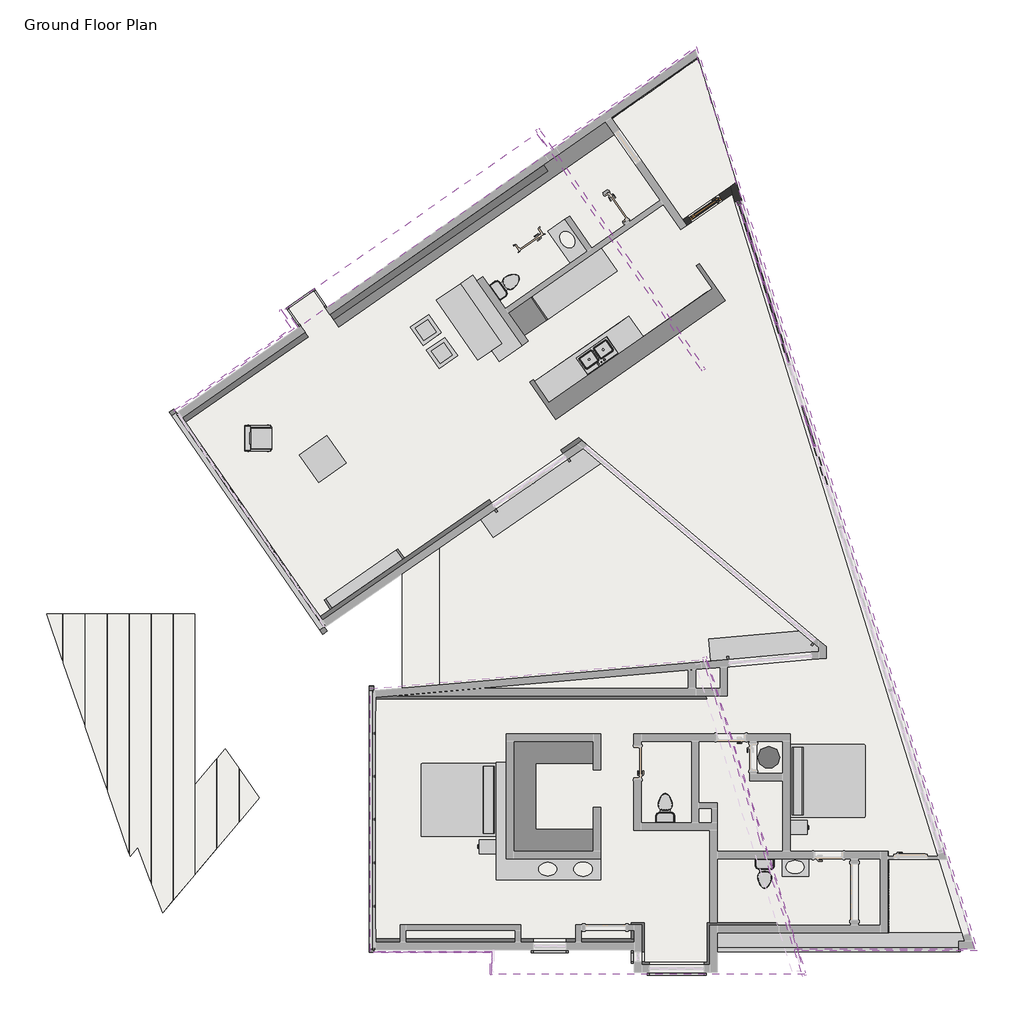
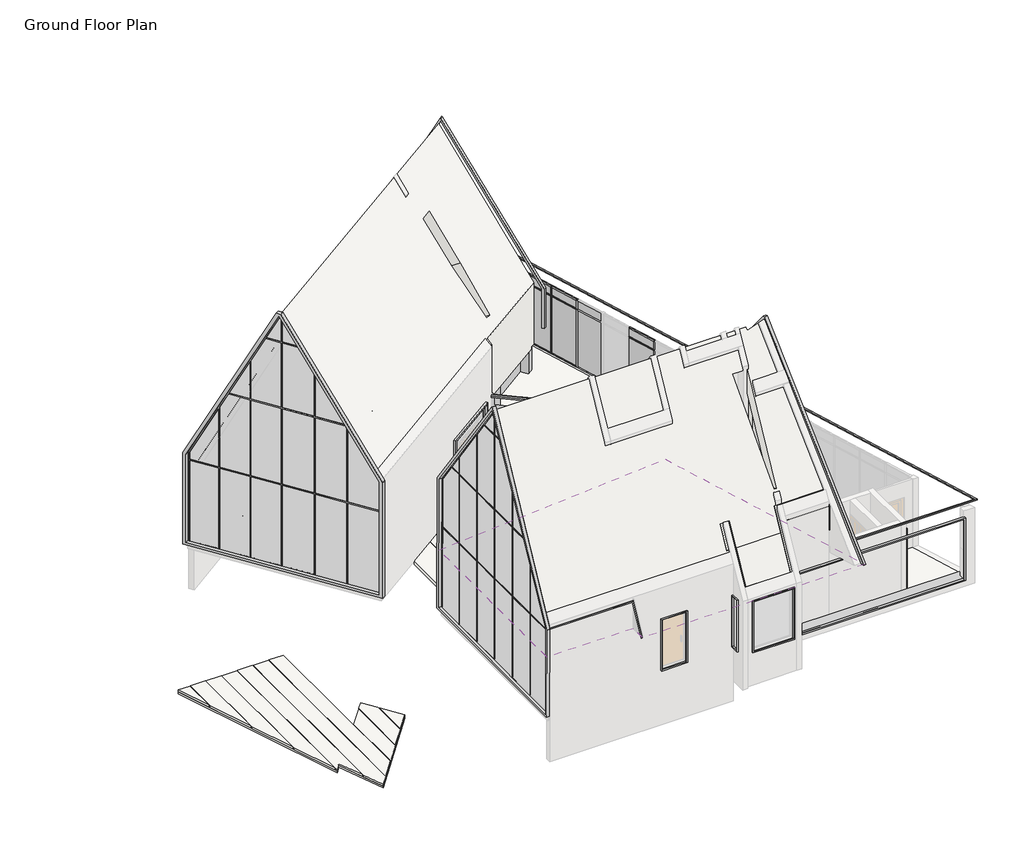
# One storey, part 5 of 5: 30 furniture elements, 23 members, 10 plates, 5 flow terminals, 5 slabs, 2 coverings, 2 walls, 1 door, 2 other elements.
"""IFC4 building model written with IfcOpenShell, lengths in millimetres."""

from ifc_helpers import new_model, si_unit, frame, origin, origin_with_axes, place, context, project, spatial, polyline, outline, extrude, faceted_brep, transform, mapped, element, save
from components import ceilings_1_ceilings_1_4e8246e3, ceilings_2_ceilings_2_b1cccb20, door_750mm_wide_door_e2ca8ed5, m_sink_kitchen_double_1000_x_535mm_0441a45c, m_toilet_domestic_3d_m_toilet_domestic_3d_5cb52bd4, m_toilet_domestic_3d_m_toilet_domestic_3d_183bbd19, m_toilet_domestic_3d_m_toilet_domestic_3d_43425dfb, m_toilet_domestic_3d_m_toilet_domestic_3d_5530cc89, m_water_heater_m_water_heater_2_e81d62a2, furniture_5fe4add1, furniture_41bca0cc, furniture_4803af8d, casework_11_casework_11_92e022cd, casework_13_casework_13_cae8e3e0, casework_14_casework_14_0dd781de, casework_15_casework_15_146c0986, casework_17_casework_17_51ee024e, casework_18_casework_18_d125f7c3, casework_20_casework_20_86b0d857, casework_21_casework_21_3d17a38e, casework_4_casework_4_f45020b6, casework_5_casework_5_8ba0d865, casework_6_casework_6_2a395651, casework_9_casework_9_728005be, chair_zk_lounge_5434_chair_zk_lounge_5434_35d170e8, curtain_wall_side_curtain_wall_side_cf0fcddf, m_bed_standard_1981_x_2032mm_king_79a78f5c, m_cabinet_file_2_drawer_0380_x_0457mm_73eb37cc, m_shelving_2440_x_0305_x_2134mm_d378ea2c, m_table_coffee_0610_x_0610_x_0610mm_65ce43c2, m_table_rectangular_0915_x_0915mm_f905f5f6, mullions_mullions_dccb908f, mullions1_mullions_ce62cb3f, wic_wic_6387dbf6, wall_finish_2_wall_finish_2_ec604deb, wall_finish_wall_finish_0220e786, rectangular_mullion_50x150mm_d6dec429, rectangular_mullion_50x150mm_72788f02, rectangular_mullion_50x150mm_3b0701cb, rectangular_mullion_50x150mm_ea022c74, rectangular_mullion_50x150mm_58209b6d, rectangular_mullion_50x150mm_e022757b, rectangular_mullion_50x150mm_7bc943a1, rectangular_mullion_50x150mm_facade_223d22c9, rectangular_mullion_50x150mm_facade_d6cc5c5f, system_panel_glazed_c5d443fe, system_panel_glazed_77f98377, system_panel_glazed_08b702ac, system_panel_opaque_81517e9a, system_panel_opaque_e4a811f1, system_panel_opaque_66f26a5c, stairs_3_stairs_3_b246aefd

model = new_model("IFC4")

# Units and contexts
model_context = context("Model", 3, world=origin())
ifc_project = project(units=[si_unit("LENGTHUNIT", "METRE", prefix="MILLI")], contexts=[model_context])

# Site, building, storey
site = spatial("IfcSite", under=ifc_project)
building = spatial("IfcBuilding", under=site)
storey = spatial("IfcBuildingStorey", under=building, Name="Ground Floor Plan", Elevation=0.0)

# Coverings
placement = place(None, origin())
ceilings_1_ceilings_1_shape = ceilings_1_ceilings_1_4e8246e3(model_context)
element("IfcCovering", 1, ObjectType="Ceilings 1 : Ceilings 1", at=placement, inside=storey, context=model_context, shape_type="MappedRepresentation", body=[
    mapped(ceilings_1_ceilings_1_shape, transform((0.0, 0.0, 0.0), x_axis=(1.0, 0.0, 0.0), y_axis=(0.0, 1.0, 0.0), z_axis=(0.0, 0.0, 1.0))),
])
ceilings_2_ceilings_2_shape = ceilings_2_ceilings_2_b1cccb20(model_context)
element("IfcCovering", 2, ObjectType="Ceilings 2 : Ceilings 2", at=placement, inside=storey, context=model_context, shape_type="MappedRepresentation", body=[
    mapped(ceilings_2_ceilings_2_shape, transform((0.0, 0.0, 0.0), x_axis=(1.0, 0.0, 0.0), y_axis=(0.0, 1.0, 0.0), z_axis=(0.0, 0.0, 1.0))),
])

# Door
door_750mm_wide_door_shape = door_750mm_wide_door_e2ca8ed5(model_context)
element("IfcDoor", 3, ObjectType="Doors_GEALAN_S9000_Front-Door : 750mm wide door", at=placement, inside=storey, context=model_context, shape_type="MappedRepresentation", body=[
    mapped(door_750mm_wide_door_shape, transform((1364.3445666, 15780.6710091, 150.0), x_axis=(0.8229702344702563, 0.5680844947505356, 0.0), y_axis=(-0.5680844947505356, 0.8229702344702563, 0.0), z_axis=(0.0, 0.0, 1.0))),
])

# Flow terminals
m_sink_kitchen_double_1000_x_535mm_shape = m_sink_kitchen_double_1000_x_535mm_0441a45c(model_context)
element("IfcFlowTerminal", 4, ObjectType="M_Sink Kitchen-Double : 1000 x 535mm", at=placement, inside=storey, context=model_context, shape_type="MappedRepresentation", body=[
    mapped(m_sink_kitchen_double_1000_x_535mm_shape, transform((-1589.0145037, 11776.8957018, 250.0193704), x_axis=(0.8191520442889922, 0.5735764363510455, 0.0), y_axis=(-0.5735764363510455, 0.8191520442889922, 0.0), z_axis=(0.0, 0.0, 1.0))),
])
m_toilet_domestic_3d_m_toilet_domestic_3d_shape = m_toilet_domestic_3d_m_toilet_domestic_3d_5cb52bd4(model_context)
m_toilet_domestic_3d_m_toilet_domestic_3d_2_shape = m_toilet_domestic_3d_m_toilet_domestic_3d_183bbd19(model_context)
element("IfcFlowTerminal", 5, ObjectType="M_Toilet-Domestic-3D : M_Toilet-Domestic-3D", at=placement, inside=storey, context=model_context, shape_type="MappedRepresentation", body=[
    mapped(m_toilet_domestic_3d_m_toilet_domestic_3d_shape, transform((2975.3904379, -2371.6350077, 150.0), x_axis=(1.0, 0.0, 0.0), y_axis=(0.0, 1.0, 0.0), z_axis=(0.0, 0.0, 1.0))),
    mapped(m_toilet_domestic_3d_m_toilet_domestic_3d_2_shape, transform((2975.3904379, -2371.6350077, 150.0), x_axis=(1.0, 0.0, 0.0), y_axis=(0.0, 1.0, 0.0), z_axis=(0.0, 0.0, 1.0))),
])
m_toilet_domestic_3d_m_toilet_domestic_3d_3_shape = m_toilet_domestic_3d_m_toilet_domestic_3d_43425dfb(model_context)
m_toilet_domestic_3d_m_toilet_domestic_3d_4_shape = m_toilet_domestic_3d_m_toilet_domestic_3d_5530cc89(model_context)
element("IfcFlowTerminal", 6, ObjectType="M_Toilet-Domestic-3D : M_Toilet-Domestic-3D", at=placement, inside=storey, context=model_context, shape_type="MappedRepresentation", body=[
    mapped(m_toilet_domestic_3d_m_toilet_domestic_3d_3_shape, transform((277.2624439, -407.5017634, 150.0), x_axis=(1.0, 0.0, 0.0), y_axis=(0.0, 1.0, 0.0), z_axis=(0.0, 0.0, 1.0))),
    mapped(m_toilet_domestic_3d_m_toilet_domestic_3d_4_shape, transform((277.2624439, -407.5017634, 150.0), x_axis=(1.0, 0.0, 0.0), y_axis=(0.0, 1.0, 0.0), z_axis=(0.0, 0.0, 1.0))),
])
element("IfcFlowTerminal", 7, ObjectType="M_Toilet-Domestic-3D : M_Toilet-Domestic-3D", at=placement, inside=storey, context=model_context, shape_type="MappedRepresentation", body=[
    mapped(m_toilet_domestic_3d_m_toilet_domestic_3d_3_shape, transform((-3951.9703627, 13764.2158223, 150.0), x_axis=(0.5735764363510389, -0.8191520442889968, 0.0), y_axis=(0.8191520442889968, 0.5735764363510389, 0.0), z_axis=(0.0, 0.0, 1.0))),
    mapped(m_toilet_domestic_3d_m_toilet_domestic_3d_4_shape, transform((-3951.9703627, 13764.2158223, 150.0), x_axis=(0.5735764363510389, -0.8191520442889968, 0.0), y_axis=(0.8191520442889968, 0.5735764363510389, 0.0), z_axis=(0.0, 0.0, 1.0))),
])
m_water_heater_m_water_heater_2_shape = m_water_heater_m_water_heater_2_e81d62a2(model_context)
element("IfcFlowTerminal", 8, ObjectType="M_Water Heater : M_Water Heater 2", at=placement, inside=storey, context=model_context, shape_type="MappedRepresentation", body=[
    mapped(m_water_heater_m_water_heater_2_shape, transform((3086.1452532, 877.8022092, 150.0), x_axis=(1.0, 0.0, 0.0), y_axis=(0.0, 1.0, 0.0), z_axis=(0.0, 0.0, 1.0))),
])

# Furniture
furniture_shape = furniture_5fe4add1(model_context)
element("IfcFurniture", 9, ObjectType="Soffitt : Soffitt", at=placement, inside=storey, context=model_context, shape_type="MappedRepresentation", body=[
    mapped(furniture_shape, transform((0.0, 0.0, 0.0), x_axis=(1.0, 0.0, 0.0), y_axis=(0.0, 1.0, 0.0), z_axis=(0.0, 0.0, 1.0))),
])
furniture_2_shape = furniture_41bca0cc(model_context)
element("IfcFurniture", 10, ObjectType="Eating area : Eating area", at=placement, inside=storey, context=model_context, shape_type="MappedRepresentation", body=[
    mapped(furniture_2_shape, transform((0.0, 0.0, 0.0), x_axis=(1.0, 0.0, 0.0), y_axis=(0.0, 1.0, 0.0), z_axis=(0.0, 0.0, 1.0))),
])
furniture_3_shape = furniture_4803af8d(model_context)
element("IfcFurniture", 11, ObjectType="Kitchen Redesign : Kitchen Redesign", at=placement, inside=storey, context=model_context, shape_type="MappedRepresentation", body=[
    mapped(furniture_3_shape, transform((0.0, 0.0, 0.0), x_axis=(1.0, 0.0, 0.0), y_axis=(0.0, 1.0, 0.0), z_axis=(0.0, 0.0, 1.0))),
])
casework_11_casework_11_shape = casework_11_casework_11_92e022cd(model_context)
element("IfcFurniture", 12, ObjectType="Casework 11 : Casework 11", at=placement, inside=storey, context=model_context, shape_type="MappedRepresentation", body=[
    mapped(casework_11_casework_11_shape, transform((0.0, 0.0, 0.0), x_axis=(1.0, 0.0, 0.0), y_axis=(0.0, 1.0, 0.0), z_axis=(0.0, 0.0, 1.0))),
])
casework_13_casework_13_shape = casework_13_casework_13_cae8e3e0(model_context)
element("IfcFurniture", 13, ObjectType="Casework 13 : Casework 13", at=placement, inside=storey, context=model_context, shape_type="MappedRepresentation", body=[
    mapped(casework_13_casework_13_shape, transform((0.0, 0.0, 0.0), x_axis=(1.0, 0.0, 0.0), y_axis=(0.0, 1.0, 0.0), z_axis=(0.0, 0.0, 1.0))),
])
casework_14_casework_14_shape = casework_14_casework_14_0dd781de(model_context)
element("IfcFurniture", 14, ObjectType="Casework 14 : Casework 14", at=placement, inside=storey, context=model_context, shape_type="MappedRepresentation", body=[
    mapped(casework_14_casework_14_shape, transform((0.0, 0.0, 0.0), x_axis=(1.0, 0.0, 0.0), y_axis=(0.0, 1.0, 0.0), z_axis=(0.0, 0.0, 1.0))),
])
casework_15_casework_15_shape = casework_15_casework_15_146c0986(model_context)
element("IfcFurniture", 15, ObjectType="Casework 15 : Casework 15", at=placement, inside=storey, context=model_context, shape_type="MappedRepresentation", body=[
    mapped(casework_15_casework_15_shape, transform((0.0, 0.0, 0.0), x_axis=(1.0, 0.0, 0.0), y_axis=(0.0, 1.0, 0.0), z_axis=(0.0, 0.0, 1.0))),
])
casework_17_casework_17_shape = casework_17_casework_17_51ee024e(model_context)
element("IfcFurniture", 16, ObjectType="Casework 17 : Casework 17", at=placement, inside=storey, context=model_context, shape_type="MappedRepresentation", body=[
    mapped(casework_17_casework_17_shape, transform((0.0, 0.0, 0.0), x_axis=(1.0, 0.0, 0.0), y_axis=(0.0, 1.0, 0.0), z_axis=(0.0, 0.0, 1.0))),
])
casework_18_casework_18_shape = casework_18_casework_18_d125f7c3(model_context)
element("IfcFurniture", 17, ObjectType="Casework 18 : Casework 18", at=placement, inside=storey, context=model_context, shape_type="MappedRepresentation", body=[
    mapped(casework_18_casework_18_shape, transform((0.0, 0.0, 0.0), x_axis=(1.0, 0.0, 0.0), y_axis=(0.0, 1.0, 0.0), z_axis=(0.0, 0.0, 1.0))),
])
casework_20_casework_20_shape = casework_20_casework_20_86b0d857(model_context)
element("IfcFurniture", 18, ObjectType="Casework 20 : Casework 20", at=placement, inside=storey, context=model_context, shape_type="MappedRepresentation", body=[
    mapped(casework_20_casework_20_shape, transform((0.0, 0.0, 0.0), x_axis=(1.0, 0.0, 0.0), y_axis=(0.0, 1.0, 0.0), z_axis=(0.0, 0.0, 1.0))),
])
casework_21_casework_21_shape = casework_21_casework_21_3d17a38e(model_context)
element("IfcFurniture", 19, ObjectType="Casework 21 : Casework 21", at=placement, inside=storey, context=model_context, shape_type="MappedRepresentation", body=[
    mapped(casework_21_casework_21_shape, transform((0.0, 0.0, 0.0), x_axis=(1.0, 0.0, 0.0), y_axis=(0.0, 1.0, 0.0), z_axis=(0.0, 0.0, 1.0))),
])
casework_4_casework_4_shape = casework_4_casework_4_f45020b6(model_context)
element("IfcFurniture", 20, ObjectType="Casework 4 : Casework 4", at=placement, inside=storey, context=model_context, shape_type="MappedRepresentation", body=[
    mapped(casework_4_casework_4_shape, transform((0.0, 0.0, 0.0), x_axis=(1.0, 0.0, 0.0), y_axis=(0.0, 1.0, 0.0), z_axis=(0.0, 0.0, 1.0))),
])
casework_5_casework_5_shape = casework_5_casework_5_8ba0d865(model_context)
element("IfcFurniture", 21, ObjectType="Casework 5 : Casework 5", at=placement, inside=storey, context=model_context, shape_type="MappedRepresentation", body=[
    mapped(casework_5_casework_5_shape, transform((0.0, 0.0, 0.0), x_axis=(1.0, 0.0, 0.0), y_axis=(0.0, 1.0, 0.0), z_axis=(0.0, 0.0, 1.0))),
])
casework_6_casework_6_shape = casework_6_casework_6_2a395651(model_context)
element("IfcFurniture", 22, ObjectType="Casework 6 : Casework 6", at=placement, inside=storey, context=model_context, shape_type="MappedRepresentation", body=[
    mapped(casework_6_casework_6_shape, transform((0.0, 0.0, 0.0), x_axis=(1.0, 0.0, 0.0), y_axis=(0.0, 1.0, 0.0), z_axis=(0.0, 0.0, 1.0))),
])
casework_9_casework_9_shape = casework_9_casework_9_728005be(model_context)
element("IfcFurniture", 23, ObjectType="Casework 9 : Casework 9", at=placement, inside=storey, context=model_context, shape_type="MappedRepresentation", body=[
    mapped(casework_9_casework_9_shape, transform((0.0, 0.0, 0.0), x_axis=(1.0, 0.0, 0.0), y_axis=(0.0, 1.0, 0.0), z_axis=(0.0, 0.0, 1.0))),
])
chair_zk_lounge_5434_chair_zk_lounge_5434_shape = chair_zk_lounge_5434_chair_zk_lounge_5434_35d170e8(model_context)
element("IfcFurniture", 24, ObjectType="Chair_-_ZK_lounge_5434 : Chair_-_ZK_lounge_5434", at=placement, inside=storey, context=model_context, shape_type="MappedRepresentation", body=[
    mapped(chair_zk_lounge_5434_chair_zk_lounge_5434_shape, transform((-11157.787969, 9539.9532, 150.0), x_axis=(0.0, 1.0, 0.0), y_axis=(-1.0, 0.0, 0.0), z_axis=(0.0, 0.0, 1.0))),
])
curtain_wall_side_curtain_wall_side_shape = curtain_wall_side_curtain_wall_side_cf0fcddf(model_context)
element("IfcFurniture", 25, ObjectType="Curtain wall side : Curtain wall side", at=placement, inside=storey, context=model_context, shape_type="MappedRepresentation", body=[
    mapped(curtain_wall_side_curtain_wall_side_shape, transform((0.0, 0.0, 0.0), x_axis=(1.0, 0.0, 0.0), y_axis=(0.0, 1.0, 0.0), z_axis=(0.0, 0.0, 1.0))),
])
m_bed_standard_1981_x_2032mm_king_shape = m_bed_standard_1981_x_2032mm_king_79a78f5c(model_context)
element("IfcFurniture", 26, ObjectType="M_Bed-Standard : 1981 x 2032mm - King", at=placement, inside=storey, context=model_context, shape_type="MappedRepresentation", body=[
    mapped(m_bed_standard_1981_x_2032mm_king_shape, transform((4639.1913833, -33.6863154, 150.0), x_axis=(0.0, 1.0, 0.0), y_axis=(-1.0, 0.0, 0.0), z_axis=(0.0, 0.0, 1.0))),
])
element("IfcFurniture", 27, ObjectType="M_Bed-Standard : 1981 x 2032mm - King", at=placement, inside=storey, context=model_context, shape_type="MappedRepresentation", body=[
    mapped(m_bed_standard_1981_x_2032mm_king_shape, transform((-5281.6184528, -4.9504558, 150.0), x_axis=(0.0, -1.0, 0.0), y_axis=(1.0, 0.0, 0.0), z_axis=(0.0, 0.0, 1.0))),
])
m_cabinet_file_2_drawer_0380_x_0457mm_shape = m_cabinet_file_2_drawer_0380_x_0457mm_73eb37cc(model_context)
element("IfcFurniture", 28, ObjectType="M_Cabinet-File 2 Drawer : 0380 x 0457mm", at=placement, inside=storey, context=model_context, shape_type="MappedRepresentation", body=[
    mapped(m_cabinet_file_2_drawer_0380_x_0457mm_shape, transform((-4397.5792346, -1674.8354274, 0.0), x_axis=(0.0, -1.0, 0.0), y_axis=(1.0, 0.0, 0.0), z_axis=(0.0, 0.0, 1.0))),
])
element("IfcFurniture", 29, ObjectType="M_Cabinet-File 2 Drawer : 0380 x 0457mm", at=placement, inside=storey, context=model_context, shape_type="MappedRepresentation", body=[
    mapped(m_cabinet_file_2_drawer_0380_x_0457mm_shape, transform((3755.1521652, -894.0425333, 0.0), x_axis=(0.0, 1.0, 0.0), y_axis=(-1.0, 0.0, 0.0), z_axis=(0.0, 0.0, 1.0))),
])
m_shelving_2440_x_0305_x_2134mm_shape = m_shelving_2440_x_0305_x_2134mm_d378ea2c(model_context)
element("IfcFurniture", 30, ObjectType="M_Shelving : 2440 x 0305 x 2134mm", at=placement, inside=storey, context=model_context, shape_type="MappedRepresentation", body=[
    mapped(m_shelving_2440_x_0305_x_2134mm_shape, transform((-8064.1000503, 5968.6411203, 150.0), x_axis=(0.8223851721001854, 0.5689311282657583, 0.0), y_axis=(-0.5689311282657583, 0.8223851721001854, 0.0), z_axis=(0.0, 0.0, 1.0))),
])
m_table_coffee_0610_x_0610_x_0610mm_shape = m_table_coffee_0610_x_0610_x_0610mm_65ce43c2(model_context)
element("IfcFurniture", 31, ObjectType="M_Table-Coffee : 0610 x 0610 x 0610mm", at=placement, inside=storey, context=model_context, shape_type="MappedRepresentation", body=[
    mapped(m_table_coffee_0610_x_0610_x_0610mm_shape, transform((-6179.1139801, 12389.3466733, 150.0), x_axis=(0.8191520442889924, 0.5735764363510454, 0.0), y_axis=(-0.5735764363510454, 0.8191520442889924, 0.0), z_axis=(0.0, 0.0, 1.0))),
])
element("IfcFurniture", 32, ObjectType="M_Table-Coffee : 0610 x 0610 x 0610mm", at=placement, inside=storey, context=model_context, shape_type="MappedRepresentation", body=[
    mapped(m_table_coffee_0610_x_0610_x_0610mm_shape, transform((-5742.6488644, 11766.0098884, 150.0), x_axis=(0.8191520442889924, 0.5735764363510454, 0.0), y_axis=(-0.5735764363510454, 0.8191520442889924, 0.0), z_axis=(0.0, 0.0, 1.0))),
])
m_table_rectangular_0915_x_0915mm_shape = m_table_rectangular_0915_x_0915mm_f905f5f6(model_context)
element("IfcFurniture", 33, ObjectType="M_Table-Rectangular : 0915 x 0915mm", at=placement, inside=storey, context=model_context, shape_type="MappedRepresentation", body=[
    mapped(m_table_rectangular_0915_x_0915mm_shape, transform((-9016.8121811, 8977.0238741, 150.0), x_axis=(0.8191520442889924, 0.5735764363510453, 0.0), y_axis=(-0.5735764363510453, 0.8191520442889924, 0.0), z_axis=(0.0, 0.0, 1.0))),
])
mullions_mullions_shape = mullions_mullions_dccb908f(model_context)
element("IfcFurniture", 34, ObjectType="Mullions : Mullions", at=placement, inside=storey, context=model_context, shape_type="MappedRepresentation", body=[
    mapped(mullions_mullions_shape, transform((0.0, 0.0, 0.0), x_axis=(1.0, 0.0, 0.0), y_axis=(0.0, 1.0, 0.0), z_axis=(0.0, 0.0, 1.0))),
])
mullions1_mullions_shape = mullions1_mullions_ce62cb3f(model_context)
element("IfcFurniture", 35, ObjectType="Mullions1 : Mullions", at=placement, inside=storey, context=model_context, shape_type="MappedRepresentation", body=[
    mapped(mullions1_mullions_shape, transform((0.0, 0.0, 0.0), x_axis=(1.0, 0.0, 0.0), y_axis=(0.0, 1.0, 0.0), z_axis=(0.0, 0.0, 1.0))),
])
wic_wic_shape = wic_wic_6387dbf6(model_context)
element("IfcFurniture", 36, ObjectType="WIC : WIC", at=placement, inside=storey, context=model_context, shape_type="MappedRepresentation", body=[
    mapped(wic_wic_shape, transform((0.0, 0.0, 0.0), x_axis=(1.0, 0.0, 0.0), y_axis=(0.0, 1.0, 0.0), z_axis=(0.0, 0.0, 1.0))),
])
wall_finish_2_wall_finish_2_shape = wall_finish_2_wall_finish_2_ec604deb(model_context)
element("IfcFurniture", 37, ObjectType="Wall Finish 2 : Wall Finish 2", at=placement, inside=storey, context=model_context, shape_type="MappedRepresentation", body=[
    mapped(wall_finish_2_wall_finish_2_shape, transform((0.0, 0.0, 0.0), x_axis=(1.0, 0.0, 0.0), y_axis=(0.0, 1.0, 0.0), z_axis=(0.0, 0.0, 1.0))),
])
wall_finish_wall_finish_shape = wall_finish_wall_finish_0220e786(model_context)
element("IfcFurniture", 38, ObjectType="Wall finish : Wall finish", at=placement, inside=storey, context=model_context, shape_type="MappedRepresentation", body=[
    mapped(wall_finish_wall_finish_shape, transform((0.0, 0.0, 0.0), x_axis=(1.0, 0.0, 0.0), y_axis=(0.0, 1.0, 0.0), z_axis=(0.0, 0.0, 1.0))),
])

# Members
rectangular_mullion_50x150mm_shape = rectangular_mullion_50x150mm_d6dec429(model_context)
element("IfcMember", 39, ObjectType="Rectangular Mullion : 50x150mm", at=placement, inside=storey, context=model_context, shape_type="MappedRepresentation", body=[
    mapped(rectangular_mullion_50x150mm_shape, transform((2959.1909991, 13736.907711, 150.0), x_axis=(0.0, 0.0, -1.0), y_axis=(-0.9549692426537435, -0.2967048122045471, 0.0), z_axis=(-0.2967048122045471, 0.9549692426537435, 0.0))),
])
element("IfcMember", 40, ObjectType="Rectangular Mullion : 50x150mm", at=placement, inside=storey, context=model_context, shape_type="MappedRepresentation", body=[
    mapped(rectangular_mullion_50x150mm_shape, transform((4334.0652352, 9311.7600423, 150.0), x_axis=(0.0, 0.0, -1.0), y_axis=(-0.9549692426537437, -0.2967048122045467, 0.0), z_axis=(-0.29670481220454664, 0.9549692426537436, 0.0))),
])
element("IfcMember", 41, ObjectType="Rectangular Mullion : 50x150mm", at=placement, inside=storey, context=model_context, shape_type="MappedRepresentation", body=[
    mapped(rectangular_mullion_50x150mm_shape, transform((2615.4724401, 14843.1946282, 150.0), x_axis=(0.0, 0.0, -1.0), y_axis=(-0.9549692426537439, -0.2967048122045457, 0.0), z_axis=(-0.2967048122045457, 0.9549692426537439, 0.0))),
])
rectangular_mullion_50x150mm_2_shape = rectangular_mullion_50x150mm_72788f02(model_context)
element("IfcMember", 42, ObjectType="Rectangular Mullion : 50x150mm", at=placement, inside=storey, context=model_context, shape_type="MappedRepresentation", body=[
    mapped(rectangular_mullion_50x150mm_2_shape, transform((2951.7733788, 13760.7819421, 150.0), x_axis=(0.2967048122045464, -0.9549692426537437, 0.0), y_axis=(-0.9549692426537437, -0.2967048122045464, 0.0), z_axis=(0.0, 0.0, -1.0))),
])
element("IfcMember", 43, ObjectType="Rectangular Mullion : 50x150mm", at=placement, inside=storey, context=model_context, shape_type="MappedRepresentation", body=[
    mapped(rectangular_mullion_50x150mm_2_shape, transform((4326.6476149, 9335.6342734, 150.0), x_axis=(0.2967048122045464, -0.9549692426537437, 0.0), y_axis=(-0.9549692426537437, -0.2967048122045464, 0.0), z_axis=(0.0, 0.0, -1.0))),
])
element("IfcMember", 44, ObjectType="Rectangular Mullion : 50x150mm", at=placement, inside=storey, context=model_context, shape_type="MappedRepresentation", body=[
    mapped(rectangular_mullion_50x150mm_2_shape, transform((2608.0548198, 14867.0688592, 150.0), x_axis=(0.2967048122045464, -0.9549692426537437, 0.0), y_axis=(-0.9549692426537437, -0.2967048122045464, 0.0), z_axis=(0.0, 0.0, -1.0))),
])
element("IfcMember", 45, ObjectType="Rectangular Mullion : 50x150mm", at=placement, inside=storey, context=model_context, shape_type="MappedRepresentation", body=[
    mapped(rectangular_mullion_50x150mm_2_shape, transform((3295.4919378, 12654.4950249, 150.0), x_axis=(0.2967048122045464, -0.9549692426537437, 0.0), y_axis=(-0.9549692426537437, -0.2967048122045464, 0.0), z_axis=(0.0, 0.0, -1.0))),
])
rectangular_mullion_50x150mm_3_shape = rectangular_mullion_50x150mm_3b0701cb(model_context)
element("IfcMember", 46, ObjectType="Rectangular Mullion : 50x150mm", at=placement, inside=storey, context=model_context, shape_type="MappedRepresentation", body=[
    mapped(rectangular_mullion_50x150mm_3_shape, transform((2294.006742, 15877.8588521, 150.0), x_axis=(0.0, 0.0, -1.0), y_axis=(-0.9549692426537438, -0.29670481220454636, 0.0), z_axis=(-0.2967048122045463, 0.9549692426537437, 0.0))),
])
rectangular_mullion_50x150mm_4_shape = rectangular_mullion_50x150mm_ea022c74(model_context)
element("IfcMember", 47, ObjectType="Rectangular Mullion : 50x150mm", at=placement, inside=storey, context=model_context, shape_type="MappedRepresentation", body=[
    mapped(rectangular_mullion_50x150mm_4_shape, transform((3302.9095581, 12630.6207938, 150.0), x_axis=(0.0, 0.0, -1.0), y_axis=(-0.9549692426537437, -0.29670481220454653, 0.0), z_axis=(-0.29670481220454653, 0.9549692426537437, 0.0))),
])
element("IfcMember", 48, ObjectType="Rectangular Mullion : 50x150mm", at=placement, inside=storey, context=model_context, shape_type="MappedRepresentation", body=[
    mapped(rectangular_mullion_50x150mm_shape, transform((2944.3557585, 13784.6561731, 2900.0), x_axis=(0.0, 0.0, 1.0), y_axis=(-0.9549692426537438, -0.29670481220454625, 0.0), z_axis=(0.2967048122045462, -0.9549692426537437, 0.0))),
])
element("IfcMember", 49, ObjectType="Rectangular Mullion : 50x150mm", at=placement, inside=storey, context=model_context, shape_type="MappedRepresentation", body=[
    mapped(rectangular_mullion_50x150mm_shape, transform((4319.2299946, 9359.5085045, 2900.0), x_axis=(0.0, 0.0, 1.0), y_axis=(-0.9549692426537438, -0.2967048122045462, 0.0), z_axis=(0.2967048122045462, -0.9549692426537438, 0.0))),
])
element("IfcMember", 50, ObjectType="Rectangular Mullion : 50x150mm", at=placement, inside=storey, context=model_context, shape_type="MappedRepresentation", body=[
    mapped(rectangular_mullion_50x150mm_shape, transform((3288.0743175, 12678.369256, 2900.0), x_axis=(0.0, 0.0, 1.0), y_axis=(-0.9549692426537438, -0.296704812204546, 0.0), z_axis=(0.296704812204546, -0.9549692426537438, 0.0))),
])
element("IfcMember", 51, ObjectType="Rectangular Mullion : 50x150mm", at=placement, inside=storey, context=model_context, shape_type="MappedRepresentation", body=[
    mapped(rectangular_mullion_50x150mm_3_shape, transform((2600.6371995, 14890.9430903, 2900.0), x_axis=(0.0, 0.0, 1.0), y_axis=(-0.9549692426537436, -0.29670481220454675, 0.0), z_axis=(0.29670481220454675, -0.9549692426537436, 0.0))),
])
rectangular_mullion_50x150mm_5_shape = rectangular_mullion_50x150mm_58209b6d(model_context)
element("IfcMember", 52, ObjectType="Rectangular Mullion : 50x150mm", at=placement, inside=storey, context=model_context, shape_type="MappedRepresentation", body=[
    mapped(rectangular_mullion_50x150mm_5_shape, transform((2951.7733788, 13760.7819421, 2500.0), x_axis=(0.2967048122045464, -0.9549692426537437, 0.0), y_axis=(-0.9549692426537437, -0.2967048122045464, 0.0), z_axis=(0.0, 0.0, -1.0))),
])
element("IfcMember", 53, ObjectType="Rectangular Mullion : 50x150mm", at=placement, inside=storey, context=model_context, shape_type="MappedRepresentation", body=[
    mapped(rectangular_mullion_50x150mm_5_shape, transform((4326.6476149, 9335.6342734, 2500.0), x_axis=(0.2967048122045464, -0.9549692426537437, 0.0), y_axis=(-0.9549692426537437, -0.2967048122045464, 0.0), z_axis=(0.0, 0.0, -1.0))),
])
element("IfcMember", 54, ObjectType="Rectangular Mullion : 50x150mm", at=placement, inside=storey, context=model_context, shape_type="MappedRepresentation", body=[
    mapped(rectangular_mullion_50x150mm_5_shape, transform((2608.0548198, 14867.0688592, 2500.0), x_axis=(0.2967048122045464, -0.9549692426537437, 0.0), y_axis=(-0.9549692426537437, -0.2967048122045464, 0.0), z_axis=(0.0, 0.0, -1.0))),
])
element("IfcMember", 55, ObjectType="Rectangular Mullion : 50x150mm", at=placement, inside=storey, context=model_context, shape_type="MappedRepresentation", body=[
    mapped(rectangular_mullion_50x150mm_5_shape, transform((3295.4919378, 12654.4950249, 2500.0), x_axis=(0.2967048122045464, -0.9549692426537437, 0.0), y_axis=(-0.9549692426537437, -0.2967048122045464, 0.0), z_axis=(0.0, 0.0, -1.0))),
])
rectangular_mullion_50x150mm_6_shape = rectangular_mullion_50x150mm_e022757b(model_context)
element("IfcMember", 56, ObjectType="Rectangular Mullion : 50x150mm", at=placement, inside=storey, context=model_context, shape_type="MappedRepresentation", body=[
    mapped(rectangular_mullion_50x150mm_6_shape, transform((4319.2299946, 9359.5085045, 2500.0), x_axis=(0.0, 0.0, 1.0), y_axis=(-0.9549692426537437, -0.29670481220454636, 0.0), z_axis=(0.29670481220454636, -0.9549692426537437, 0.0))),
])
element("IfcMember", 57, ObjectType="Rectangular Mullion : 50x150mm", at=placement, inside=storey, context=model_context, shape_type="MappedRepresentation", body=[
    mapped(rectangular_mullion_50x150mm_6_shape, transform((2944.3557585, 13784.6561731, 2500.0), x_axis=(0.0, 0.0, 1.0), y_axis=(-0.9549692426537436, -0.2967048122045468, 0.0), z_axis=(0.29670481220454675, -0.9549692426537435, 0.0))),
])
element("IfcMember", 58, ObjectType="Rectangular Mullion : 50x150mm", at=placement, inside=storey, context=model_context, shape_type="MappedRepresentation", body=[
    mapped(rectangular_mullion_50x150mm_6_shape, transform((3288.0743175, 12678.369256, 2500.0), x_axis=(0.0, 0.0, 1.0), y_axis=(-0.9549692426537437, -0.29670481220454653, 0.0), z_axis=(0.29670481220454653, -0.9549692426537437, 0.0))),
])
rectangular_mullion_50x150mm_7_shape = rectangular_mullion_50x150mm_7bc943a1(model_context)
element("IfcMember", 59, ObjectType="Rectangular Mullion : 50x150mm", at=placement, inside=storey, context=model_context, shape_type="MappedRepresentation", body=[
    mapped(rectangular_mullion_50x150mm_7_shape, transform((2600.6371995, 14890.9430903, 2500.0), x_axis=(0.0, 0.0, 1.0), y_axis=(-0.9549692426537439, -0.2967048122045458, 0.0), z_axis=(0.2967048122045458, -0.9549692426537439, 0.0))),
])
rectangular_mullion_50x150mm_facade_shape = rectangular_mullion_50x150mm_facade_223d22c9(model_context)
element("IfcMember", 60, ObjectType="Rectangular Mullion : 50x150mm Facade", at=placement, inside=storey, context=model_context, shape_type="MappedRepresentation", body=[
    mapped(rectangular_mullion_50x150mm_facade_shape, transform((2264.3362607, 15973.3557764, 2500.0), x_axis=(-0.2967048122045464, 0.9549692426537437, 0.0), y_axis=(-0.9549692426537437, -0.2967048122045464, 0.0), z_axis=(0.0, 0.0, 1.0))),
])
rectangular_mullion_50x150mm_facade_2_shape = rectangular_mullion_50x150mm_facade_d6cc5c5f(model_context)
element("IfcMember", 61, ObjectType="Rectangular Mullion : 50x150mm Facade", at=placement, inside=storey, context=model_context, shape_type="MappedRepresentation", body=[
    mapped(rectangular_mullion_50x150mm_facade_2_shape, transform((2264.3362607, 15973.3557764, 2900.0), x_axis=(-0.2967048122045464, 0.9549692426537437, 0.0), y_axis=(-0.9549692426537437, -0.2967048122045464, 0.0), z_axis=(0.0, 0.0, 1.0))),
])

# Plates
system_panel_glazed_shape = system_panel_glazed_c5d443fe(model_context)
element("IfcPlate", 62, ObjectType="System Panel : Glazed", at=placement, inside=storey, context=model_context, shape_type="MappedRepresentation", body=[
    mapped(system_panel_glazed_shape, transform((3463.6424072, 12113.2886818, 200.0), x_axis=(0.2967048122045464, -0.9549692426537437, 0.0), y_axis=(0.9549692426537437, 0.2967048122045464, 0.0), z_axis=(0.0, 0.0, 1.0))),
])
system_panel_glazed_2_shape = system_panel_glazed_77f98377(model_context)
element("IfcPlate", 63, ObjectType="System Panel : Glazed", at=placement, inside=storey, context=model_context, shape_type="MappedRepresentation", body=[
    mapped(system_panel_glazed_2_shape, transform((3123.6326583, 13207.6384835, 200.0), x_axis=(0.2967048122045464, -0.9549692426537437, 0.0), y_axis=(0.9549692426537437, 0.2967048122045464, 0.0), z_axis=(0.0, 0.0, 1.0))),
])
element("IfcPlate", 64, ObjectType="System Panel : Glazed", at=placement, inside=storey, context=model_context, shape_type="MappedRepresentation", body=[
    mapped(system_panel_glazed_2_shape, transform((2779.9140993, 14313.9254006, 200.0), x_axis=(0.2967048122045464, -0.9549692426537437, 0.0), y_axis=(0.9549692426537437, 0.2967048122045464, 0.0), z_axis=(0.0, 0.0, 1.0))),
])
element("IfcPlate", 65, ObjectType="System Panel : Glazed", at=placement, inside=storey, context=model_context, shape_type="MappedRepresentation", body=[
    mapped(system_panel_glazed_2_shape, transform((4154.7883354, 9888.777732, 200.0), x_axis=(0.2967048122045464, -0.9549692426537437, 0.0), y_axis=(0.9549692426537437, 0.2967048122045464, 0.0), z_axis=(0.0, 0.0, 1.0))),
])
system_panel_glazed_3_shape = system_panel_glazed_08b702ac(model_context)
element("IfcPlate", 66, ObjectType="System Panel : Glazed", at=placement, inside=storey, context=model_context, shape_type="MappedRepresentation", body=[
    mapped(system_panel_glazed_3_shape, transform((2447.3219707, 15384.4009712, 200.0), x_axis=(0.2967048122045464, -0.9549692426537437, 0.0), y_axis=(0.9549692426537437, 0.2967048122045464, 0.0), z_axis=(0.0, 0.0, 1.0))),
])
system_panel_opaque_shape = system_panel_opaque_81517e9a(model_context)
element("IfcPlate", 67, ObjectType="System Panel : Opaque", at=placement, inside=storey, context=model_context, shape_type="MappedRepresentation", body=[
    mapped(system_panel_opaque_shape, transform((2447.3219707, 15384.4009712, 2525.0), x_axis=(0.2967048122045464, -0.9549692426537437, 0.0), y_axis=(0.9549692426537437, 0.2967048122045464, 0.0), z_axis=(0.0, 0.0, 1.0))),
])
system_panel_opaque_2_shape = system_panel_opaque_e4a811f1(model_context)
element("IfcPlate", 68, ObjectType="System Panel : Opaque", at=placement, inside=storey, context=model_context, shape_type="MappedRepresentation", body=[
    mapped(system_panel_opaque_2_shape, transform((2779.9140993, 14313.9254006, 2525.0), x_axis=(0.2967048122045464, -0.9549692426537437, 0.0), y_axis=(0.9549692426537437, 0.2967048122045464, 0.0), z_axis=(0.0, 0.0, 1.0))),
])
element("IfcPlate", 69, ObjectType="System Panel : Opaque", at=placement, inside=storey, context=model_context, shape_type="MappedRepresentation", body=[
    mapped(system_panel_opaque_2_shape, transform((3123.6326583, 13207.6384835, 2525.0), x_axis=(0.2967048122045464, -0.9549692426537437, 0.0), y_axis=(0.9549692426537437, 0.2967048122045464, 0.0), z_axis=(0.0, 0.0, 1.0))),
])
element("IfcPlate", 70, ObjectType="System Panel : Opaque", at=placement, inside=storey, context=model_context, shape_type="MappedRepresentation", body=[
    mapped(system_panel_opaque_2_shape, transform((4154.7883354, 9888.777732, 2525.0), x_axis=(0.2967048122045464, -0.9549692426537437, 0.0), y_axis=(0.9549692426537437, 0.2967048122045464, 0.0), z_axis=(0.0, 0.0, 1.0))),
])
system_panel_opaque_3_shape = system_panel_opaque_66f26a5c(model_context)
element("IfcPlate", 71, ObjectType="System Panel : Opaque", at=placement, inside=storey, context=model_context, shape_type="MappedRepresentation", body=[
    mapped(system_panel_opaque_3_shape, transform((3463.6424072, 12113.2886818, 2525.0), x_axis=(0.2967048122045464, -0.9549692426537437, 0.0), y_axis=(0.9549692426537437, 0.2967048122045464, 0.0), z_axis=(0.0, 0.0, 1.0))),
])

# Roof
element("IfcRoof", 72, ObjectType="Roof_Pitched-50SS-220Ins-20MPan-225Purl", at=placement, inside=storey, context=model_context, shape_type="Brep", body=[
    faceted_brep([(-7723.512041, -802.0464193, 10500.0), (2743.9787015, -802.0464193, 10500.0), (4059.9834299, -4995.4727741, 2631.8921503), (-4426.2369788, -4995.4727741, 2631.8921503), (-4426.2369788, -4387.7952574, 3772.0748636), (-7723.512041, -4387.7952574, 3772.0748636), (1712.8252801, -3469.4389803, 5495.1827999), (1712.8252801, -1423.348267, 9334.2540131), (1004.0156918, -1423.348267, 9334.2540131), (1514.163403, -3469.4389803, 5495.1827999), (-7723.512041, 2743.1454426, 5541.5877182), (1381.4198744, 3539.7237674, 4427.4692437), (4065.3176502, -5012.470175, 2631.8921503), (2744.5634262, -803.9096346, 10528.3962075), (-7723.512041, -803.9096346, 10528.3962075), (-7723.512041, -4404.7926583, 3772.0748636), (-4426.2369788, -4404.7926583, 3772.0748636), (-4426.2369788, -5012.470175, 2631.8921503), (1712.8252801, -1440.3456679, 9334.2540131), (1712.8252801, -3469.4389803, 5527.0749503), (1514.163403, -3469.4389803, 5527.0749503), (1008.2536198, -1440.3456679, 9334.2540131), (1381.4198744, 3539.7237674, 4453.2595021), (-7723.512041, 2743.1454426, 5567.3779766)], [[[0, 1, 2, 3, 4, 5], [6, 7, 8, 9]], [[1, 0, 10, 11]], [[12, 13, 14, 15, 16, 17], [18, 19, 20, 21]], [[14, 13, 22, 23]], [[1, 11, 22, 13, 12, 2]], [[11, 10, 23, 22]], [[10, 0, 5, 15, 14, 23]], [[17, 16, 4, 3]], [[18, 7, 6, 19]], [[19, 6, 9, 20]], [[20, 9, 8, 21]], [[7, 18, 21, 8]], [[4, 16, 15, 5]], [[3, 2, 12, 17]]]),
])

# Slabs
element("IfcSlab", 73, ObjectType="150mm", at=placement, inside=storey, context=model_context, shape_type="SweptSolid", body=[
    extrude(outline(polyline([(-8820.3384752, 12898.9859996), (1154.2572688, 19883.2731301), (2209.8339781, 16485.8112449), (2037.3875242, 16366.7739425), (8400.891009, -4114.6940133), (1490.6584713, -4114.6940133), (1490.6584713, -4752.6528425), (-363.0204162, -4752.6528425), (-363.0204162, -4144.9753259), (-7582.9571443, -4144.9753259), (-7582.9571443, 2659.4107111), (4539.7682518, 3720.0117543), (4539.7682518, 3823.9156436), (-2075.2940732, 9412.7693006), (-9019.9889545, 4608.3865999), (-12818.6641363, 10099.3397011), (-9492.1879606, 12428.563395), (-9936.0322213, 13062.4386912), (-9264.1881249, 13532.868992), (-8820.3384752, 12898.9859996)])), origin_with_axes(), (0.0, 0.0, 1.0), 150.0),
])
element("IfcSlab", 74, ObjectType="Courtyard floor", at=placement, inside=storey, context=model_context, shape_type="SweptSolid", body=[
    extrude(outline(polyline([(-5860.5196132, 2850.2572622), (-6860.5196132, 2762.7685987), (-6860.5196132, 5859.125747), (-5860.5196132, 6550.9319074), (-5860.5196132, 2850.2572622)])), frame((0.0, 0.0, -150.0), z_axis=(0.0, 0.0, 1.0), x_axis=(1.0, 0.0, 0.0)), (0.0, 0.0, 1.0), 150.0),
])
element("IfcSlab", 75, ObjectType="Decking", at=placement, inside=storey, context=model_context, shape_type="SweptSolid", body=[
    extrude(outline(polyline([(-16078.2246204, 3518.7354971), (-16508.9470876, 4769.6443716), (-16078.2246204, 4769.6443716), (-16078.2246204, 3518.7354971)])), frame((0.0, 0.0, -1255.0), z_axis=(0.0, 0.0, 1.0), x_axis=(1.0, 0.0, 0.0)), (0.0, 0.0, 1.0), 75.0),
    extrude(outline(polyline([(-14037.579357, -1565.2214066), (-14243.2713921, -1810.3556284), (-14253.2246204, -1781.4493546), (-14253.2246204, 4769.6443716), (-13678.2246204, 4769.6443716), (-13678.2246204, -2501.3725014), (-14037.579357, -1565.2214066)])), frame((0.0, 0.0, -1255.0), z_axis=(0.0, 0.0, 1.0), x_axis=(1.0, 0.0, 0.0)), (0.0, 0.0, 1.0), 75.0),
    extrude(outline(polyline([(-13078.2246204, -3007.1737165), (-13356.6802529, -3339.0242169), (-13653.2246204, -2566.499728), (-13653.2246204, 4769.6443716), (-13078.2246204, 4769.6443716), (-13078.2246204, -3007.1737165)])), frame((0.0, 0.0, -1255.0), z_axis=(0.0, 0.0, 1.0), x_axis=(1.0, 0.0, 0.0)), (0.0, 0.0, 1.0), 75.0),
    extrude(outline(polyline([(-11273.2246204, 554.3422306), (-10738.4238701, -218.7077664), (-11273.2246204, -856.0584818), (-11273.2246204, 554.3422306)])), frame((0.0, 0.0, -1255.0), z_axis=(0.0, 0.0, 1.0), x_axis=(1.0, 0.0, 0.0)), (0.0, 0.0, 1.0), 75.0),
    extrude(outline(polyline([(-11873.2246204, 857.2186976), (-11659.2064099, 1112.2756687), (-11298.2246204, 590.4795209), (-11298.2246204, -885.8523217), (-11873.2246204, -1571.1106374), (-11873.2246204, 857.2186976)])), frame((0.0, 0.0, -1255.0), z_axis=(0.0, 0.0, 1.0), x_axis=(1.0, 0.0, 0.0)), (0.0, 0.0, 1.0), 75.0),
    extrude(outline(polyline([(-12493.2246204, 4769.6443716), (-12493.2246204, -2309.9978648), (-13053.2246204, -2977.3798767), (-13053.2246204, 4769.6443716), (-12493.2246204, 4769.6443716)])), frame((0.0, 0.0, -1255.0), z_axis=(0.0, 0.0, 1.0), x_axis=(1.0, 0.0, 0.0)), (0.0, 0.0, 1.0), 75.0),
    extrude(outline(polyline([(-15478.2246204, 1776.2089705), (-16053.2246204, 3446.1302252), (-16053.2246204, 4769.6443716), (-15478.2246204, 4769.6443716), (-15478.2246204, 1776.2089705)])), frame((0.0, 0.0, -1255.0), z_axis=(0.0, 0.0, 1.0), x_axis=(1.0, 0.0, 0.0)), (0.0, 0.0, 1.0), 75.0),
    extrude(outline(polyline([(-14878.2246204, 33.6824439), (-15453.2246204, 1703.6036986), (-15453.2246204, 4769.6443716), (-14878.2246204, 4769.6443716), (-14878.2246204, 33.6824439)])), frame((0.0, 0.0, -1255.0), z_axis=(0.0, 0.0, 1.0), x_axis=(1.0, 0.0, 0.0)), (0.0, 0.0, 1.0), 75.0),
    extrude(outline(polyline([(-14278.2246204, -1708.8440827), (-14853.2246204, -38.922828), (-14853.2246204, 4769.6443716), (-14278.2246204, 4769.6443716), (-14278.2246204, -1708.8440827)])), frame((0.0, 0.0, -1255.0), z_axis=(0.0, 0.0, 1.0), x_axis=(1.0, 0.0, 0.0)), (0.0, 0.0, 1.0), 75.0),
    extrude(outline(polyline([(-11898.2246204, 827.4248577), (-11898.2246204, -1600.9044772), (-12468.2246204, -2280.204025), (-12468.2246204, 148.12531), (-11898.2246204, 827.4248577)])), frame((0.0, 0.0, -1255.0), z_axis=(0.0, 0.0, 1.0), x_axis=(1.0, 0.0, 0.0)), (0.0, 0.0, 1.0), 75.0),
])
element("IfcSlab", 76, ObjectType="Decking", at=placement, inside=storey, context=model_context, shape_type="SweptSolid", body=[
    extrude(outline(polyline([(-12493.2246204, 4769.6443716), (-12493.2246204, 118.3314701), (-11659.2064099, 1112.2756687), (-10738.4238701, -218.7077664), (-13356.6802529, -3339.0242169), (-14037.579357, -1565.2214066), (-14243.2713921, -1810.3556284), (-16508.9470876, 4769.6443716), (-12493.2246204, 4769.6443716)])), frame((0.0, 0.0, -1330.0), z_axis=(0.0, 0.0, 1.0), x_axis=(1.0, 0.0, 0.0)), (0.0, 0.0, 1.0), 75.0),
])
element("IfcSlab", 77, ObjectType="Main Courtyard floor", at=placement, inside=storey, context=model_context, shape_type="SweptSolid", body=[
    extrude(outline(polyline([(-1951.1101919, 9255.4854285), (4439.7682518, 3856.0375311), (4439.7682518, 3751.4156814), (-5860.5196132, 2850.2572622), (-5860.5196132, 6550.9319074), (-1951.1101919, 9255.4854285)])), frame((0.0, 0.0, -150.0), z_axis=(0.0, 0.0, 1.0), x_axis=(1.0, 0.0, 0.0)), (0.0, 0.0, 1.0), 150.0),
])

# Stair
stairs_3_stairs_3_shape = stairs_3_stairs_3_b246aefd(model_context)
element("IfcStair", 78, ObjectType="Stairs 3 : Stairs 3", at=placement, inside=storey, context=model_context, shape_type="MappedRepresentation", body=[
    mapped(stairs_3_stairs_3_shape, transform((0.0, 0.0, 0.0), x_axis=(1.0, 0.0, 0.0), y_axis=(0.0, 1.0, 0.0), z_axis=(0.0, 0.0, 1.0))),
])

# Walls
element("IfcWall", 79, ObjectType="DEFAULT 4", at=placement, inside=storey, context=model_context, shape_type="Brep", body=[
    faceted_brep([(2359.833185, 16003.0262576, 2900.0), (2359.833185, 16003.0262576, 0.0), (2209.8339781, 16485.8112449, 0.0), (2209.8339781, 16485.8112449, 2900.0), (2037.3875242, 16366.7739425, 0.0), (2099.5595087, 16166.6682125, 0.0), (2168.8393365, 15943.6852952, 0.0), (2168.8393365, 15943.6852952, 2900.0), (2099.5595087, 16166.6682125, 2900.0), (2037.3875242, 16366.7739425, 2900.0)], [[[0, 1, 2, 3]], [[4, 5, 6, 7, 8, 9]], [[2, 1, 6, 5, 4]], [[3, 9, 8, 7, 0]], [[6, 1, 0, 7]], [[2, 4, 9, 3]]]),
])
element("IfcWall", 80, ObjectType="DEFAULT 7", at=placement, inside=storey, context=model_context, shape_type="Brep", body=[
    faceted_brep([(864.3543812, 15314.0239109, 0.0), (2099.5595087, 16166.6682125, 0.0), (2099.5595087, 16166.6682125, 2900.0), (864.3543812, 15314.0239109, 2900.0), (1840.8678356, 15988.097078, 2260.0), (1840.8678356, 15988.097078, 150.0), (1001.4381965, 15408.6508934, 150.0), (1001.4381965, 15408.6508934, 2260.0), (2037.3875242, 16366.7739425, 0.0), (749.6365277, 15477.8579848, 0.0), (749.6365277, 15477.8579848, 2900.0), (2037.3875242, 16366.7739425, 2900.0), (1727.2509367, 16152.6911249, 150.0), (1727.2509367, 16152.6911249, 2260.0), (887.8212975, 15573.2449403, 2260.0), (887.8212975, 15573.2449403, 150.0)], [[[0, 1, 2, 3], [4, 5, 6, 7]], [[8, 9, 10, 11], [12, 13, 14, 15]], [[1, 0, 9, 8]], [[0, 3, 10, 9]], [[3, 2, 11, 10]], [[1, 8, 11, 2]], [[12, 5, 4, 13]], [[13, 4, 7, 14]], [[14, 7, 6, 15]], [[5, 12, 15, 6]]]),
])

save(model, "model.ifc")
